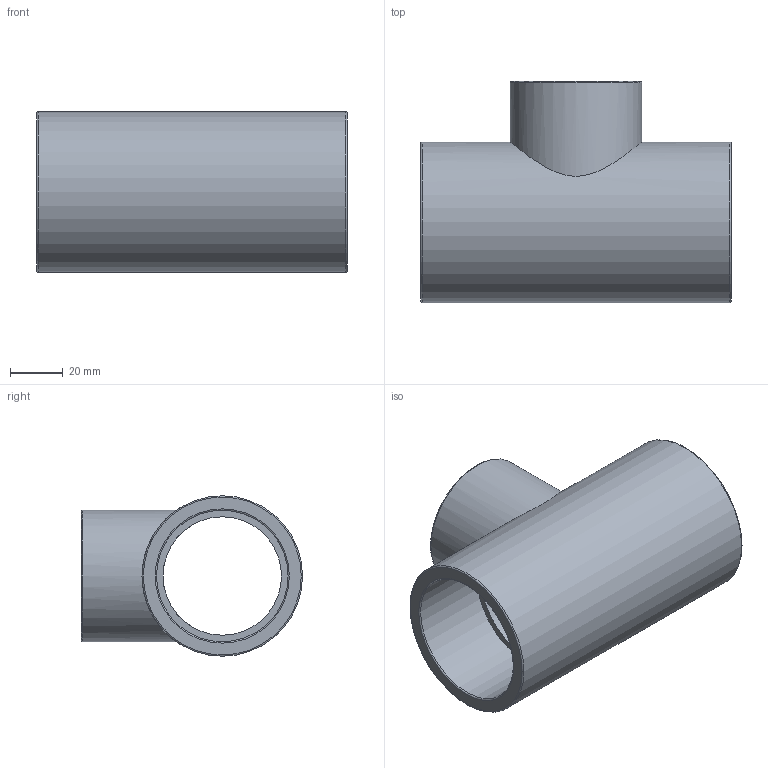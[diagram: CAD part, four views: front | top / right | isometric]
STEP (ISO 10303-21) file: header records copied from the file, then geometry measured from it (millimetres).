
FILE_DESCRIPTION(/* description */ ('PLASSON REDUCER TEE - CEMENT PCV 50-40-50'),/* implementation_level */ '2;1');
FILE_NAME(/* name */ 'C:\Dropbox\KIMPROJECTS-Inventor\99-16-3568-Processing\PVC Catalog 2017\051400\051400050040.ipt.stp',/* time_stamp */ '2017-12-07T16:00:22+02:00',/* author */ ('KIM'),/* organization */ (''),/* preprocessor_version */ 'ST-DEVELOPER v15.6',/* originating_system */ 'Autodesk Inventor 2015',/* authorisation */ '');
FILE_SCHEMA (('AUTOMOTIVE_DESIGN { 1 0 10303 214 3 1 1 }'));
Length unit declared in the file: millimetre
Products named in the file (1): 051400050040
Bounding box: 118 x 84 x 61 mm (x, y, z)
Volume: 144954.4 mm3; surface area: 49217.8 mm2
Topology: 1 solids, 1 shells, 19 faces, 39 edges, 24 vertices
Faces by surface type: cylinder 7, torus 6, plane 6
Full cylindrical faces by diameter (mm): 36 x1, 40 x1, 45 x1, 50 x3, 61 x1
Entity records: 550 total; most frequent: CARTESIAN_POINT 190, DIRECTION 76, EDGE_LOOP 40, ORIENTED_EDGE 40, AXIS2_PLACEMENT_3D 38, FACE_BOUND 21, VERTEX_POINT 20, EDGE_CURVE 20
